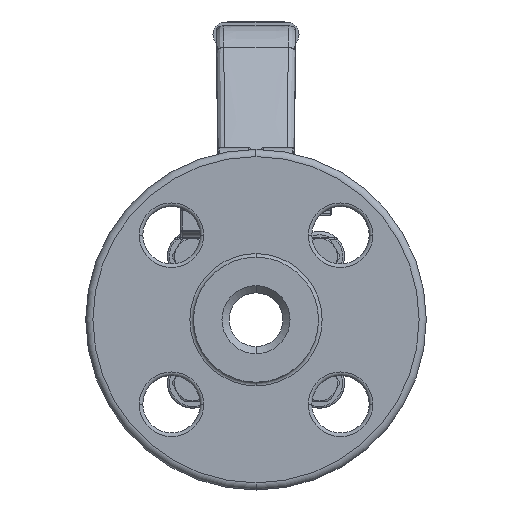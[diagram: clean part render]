
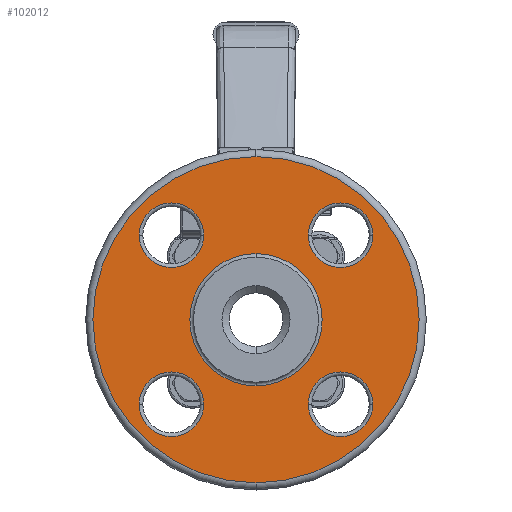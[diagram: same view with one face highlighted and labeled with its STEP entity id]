
A CAD part, left-side view. The second image highlights one B-rep face of the part: STEP entity #102012.
In plain terms, the highlighted planar face has unit normal (-1, 0, 0).
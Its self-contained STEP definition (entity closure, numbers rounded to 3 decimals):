
#25886=CARTESIAN_POINT('',(-68.4,0.,0.));
#25887=DIRECTION('',(1.,0.,0.));
#25888=DIRECTION('',(0.,0.,1.));
#25889=AXIS2_PLACEMENT_3D('',#25886,#25887,#25888);
#25901=CARTESIAN_POINT('',(-68.4,0.,0.));
#25902=DIRECTION('',(1.,0.,0.));
#25903=DIRECTION('',(0.,0.,-1.));
#25904=AXIS2_PLACEMENT_3D('',#25901,#25902,#25903);
#25919=CARTESIAN_POINT('',(-68.4,0.,0.));
#25920=DIRECTION('',(-1.,0.,0.));
#25921=DIRECTION('',(0.,0.,-1.));
#25922=AXIS2_PLACEMENT_3D('',#25919,#25920,#25921);
#25934=CARTESIAN_POINT('',(-68.4,0.,0.));
#25935=DIRECTION('',(-1.,0.,0.));
#25936=DIRECTION('',(0.,0.,1.));
#25937=AXIS2_PLACEMENT_3D('',#25934,#25935,#25936);
#35062=CARTESIAN_POINT('',(-68.4,23.582,23.582));
#35063=DIRECTION('',(1.,0.,0.));
#35064=DIRECTION('',(0.,1.,0.));
#35065=AXIS2_PLACEMENT_3D('',#35062,#35063,#35064);
#35077=CARTESIAN_POINT('',(-68.4,23.582,23.582));
#35078=DIRECTION('',(1.,0.,0.));
#35079=DIRECTION('',(0.,-1.,0.));
#35080=AXIS2_PLACEMENT_3D('',#35077,#35078,#35079);
#35130=CARTESIAN_POINT('',(-68.4,-23.582,23.582));
#35131=DIRECTION('',(1.,0.,0.));
#35132=DIRECTION('',(0.,-1.,0.));
#35133=AXIS2_PLACEMENT_3D('',#35130,#35131,#35132);
#35145=CARTESIAN_POINT('',(-68.4,-23.582,23.582));
#35146=DIRECTION('',(1.,0.,0.));
#35147=DIRECTION('',(0.,1.,0.));
#35148=AXIS2_PLACEMENT_3D('',#35145,#35146,#35147);
#35198=CARTESIAN_POINT('',(-68.4,-23.582,-23.582));
#35199=DIRECTION('',(1.,0.,0.));
#35200=DIRECTION('',(0.,1.,0.));
#35201=AXIS2_PLACEMENT_3D('',#35198,#35199,#35200);
#35213=CARTESIAN_POINT('',(-68.4,-23.582,-23.582));
#35214=DIRECTION('',(1.,0.,0.));
#35215=DIRECTION('',(0.,-1.,0.));
#35216=AXIS2_PLACEMENT_3D('',#35213,#35214,#35215);
#35266=CARTESIAN_POINT('',(-68.4,23.582,-23.582));
#35267=DIRECTION('',(1.,0.,0.));
#35268=DIRECTION('',(0.,1.,0.));
#35269=AXIS2_PLACEMENT_3D('',#35266,#35267,#35268);
#35281=CARTESIAN_POINT('',(-68.4,23.582,-23.582));
#35282=DIRECTION('',(1.,0.,0.));
#35283=DIRECTION('',(0.,-1.,0.));
#35284=AXIS2_PLACEMENT_3D('',#35281,#35282,#35283);
#45215=CARTESIAN_POINT('',(-68.4,0.,-45.5));
#45216=CARTESIAN_POINT('',(-68.4,0.,45.5));
#45217=VERTEX_POINT('',#45215);
#45218=VERTEX_POINT('',#45216);
#46029=CARTESIAN_POINT('',(-68.4,32.582,23.582));
#46030=CARTESIAN_POINT('',(-68.4,14.582,23.582));
#46031=VERTEX_POINT('',#46029);
#46032=VERTEX_POINT('',#46030);
#46045=CARTESIAN_POINT('',(-68.4,-32.582,23.582));
#46046=CARTESIAN_POINT('',(-68.4,-14.582,23.582));
#46047=VERTEX_POINT('',#46045);
#46048=VERTEX_POINT('',#46046);
#46061=CARTESIAN_POINT('',(-68.4,-14.582,-23.582));
#46062=CARTESIAN_POINT('',(-68.4,-32.582,-23.582));
#46063=VERTEX_POINT('',#46061);
#46064=VERTEX_POINT('',#46062);
#46077=CARTESIAN_POINT('',(-68.4,32.582,-23.582));
#46078=CARTESIAN_POINT('',(-68.4,14.582,-23.582));
#46079=VERTEX_POINT('',#46077);
#46080=VERTEX_POINT('',#46078);
#46700=CARTESIAN_POINT('',(-68.4,0.,-18.45));
#46701=CARTESIAN_POINT('',(-68.4,0.,18.45));
#46702=VERTEX_POINT('',#46700);
#46703=VERTEX_POINT('',#46701);
#101973=CARTESIAN_POINT('',(-68.4,0.,0.));
#101974=DIRECTION('',(-1.,0.,0.));
#101975=DIRECTION('',(0.,0.,1.));
#101976=AXIS2_PLACEMENT_3D('',#101973,#101974,#101975);
#101977=PLANE('',#101976);
#101978=ORIENTED_EDGE('',*,*,#101955,.T.);
#101979=ORIENTED_EDGE('',*,*,#101940,.T.);
#101980=EDGE_LOOP('',(#101978,#101979));
#101981=FACE_OUTER_BOUND('',#101980,.F.);
#101983=ORIENTED_EDGE('',*,*,#101982,.T.);
#101985=ORIENTED_EDGE('',*,*,#101984,.T.);
#101986=EDGE_LOOP('',(#101983,#101985));
#101987=FACE_BOUND('',#101986,.F.);
#101989=ORIENTED_EDGE('',*,*,#101988,.F.);
#101991=ORIENTED_EDGE('',*,*,#101990,.F.);
#101992=EDGE_LOOP('',(#101989,#101991));
#101993=FACE_BOUND('',#101992,.F.);
#101995=ORIENTED_EDGE('',*,*,#101994,.F.);
#101997=ORIENTED_EDGE('',*,*,#101996,.F.);
#101998=EDGE_LOOP('',(#101995,#101997));
#101999=FACE_BOUND('',#101998,.F.);
#102001=ORIENTED_EDGE('',*,*,#102000,.F.);
#102003=ORIENTED_EDGE('',*,*,#102002,.F.);
#102004=EDGE_LOOP('',(#102001,#102003));
#102005=FACE_BOUND('',#102004,.F.);
#102007=ORIENTED_EDGE('',*,*,#102006,.F.);
#102009=ORIENTED_EDGE('',*,*,#102008,.F.);
#102010=EDGE_LOOP('',(#102007,#102009));
#102011=FACE_BOUND('',#102010,.F.);
#102012=ADVANCED_FACE('',(#101981,#101987,#101993,#101999,#102005,#102011),
#101977,.T.);
#25890=CIRCLE('',#25889,45.5);
#25905=CIRCLE('',#25904,45.5);
#25923=CIRCLE('',#25922,18.45);
#25938=CIRCLE('',#25937,18.45);
#35066=CIRCLE('',#35065,9.);
#35081=CIRCLE('',#35080,9.);
#35134=CIRCLE('',#35133,9.);
#35149=CIRCLE('',#35148,9.);
#35202=CIRCLE('',#35201,9.);
#35217=CIRCLE('',#35216,9.);
#35270=CIRCLE('',#35269,9.);
#35285=CIRCLE('',#35284,9.);
#101940=EDGE_CURVE('',#45218,#45217,#25890,.T.);
#101955=EDGE_CURVE('',#45217,#45218,#25905,.T.);
#101982=EDGE_CURVE('',#46702,#46703,#25923,.T.);
#101984=EDGE_CURVE('',#46703,#46702,#25938,.T.);
#101988=EDGE_CURVE('',#46031,#46032,#35066,.T.);
#101990=EDGE_CURVE('',#46032,#46031,#35081,.T.);
#101994=EDGE_CURVE('',#46047,#46048,#35134,.T.);
#101996=EDGE_CURVE('',#46048,#46047,#35149,.T.);
#102000=EDGE_CURVE('',#46063,#46064,#35202,.T.);
#102002=EDGE_CURVE('',#46064,#46063,#35217,.T.);
#102006=EDGE_CURVE('',#46079,#46080,#35270,.T.);
#102008=EDGE_CURVE('',#46080,#46079,#35285,.T.);
